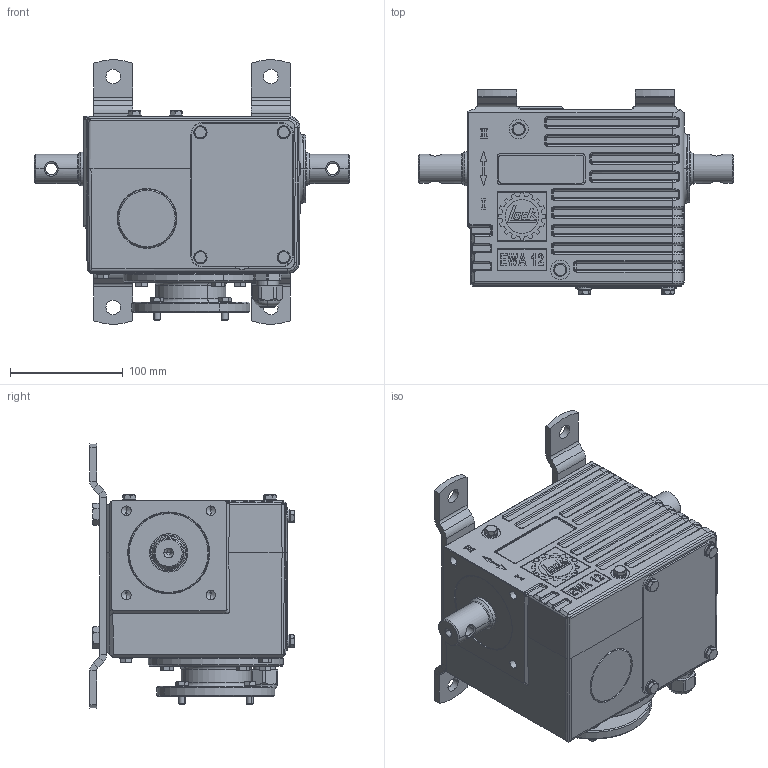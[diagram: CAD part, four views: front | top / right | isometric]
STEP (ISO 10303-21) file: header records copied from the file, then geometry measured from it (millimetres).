
FILE_DESCRIPTION (( 'STEP AP214' ), '1' );
FILE_NAME ('010203076_EWA_12_3D__DE_12212.2505.0620.STEP', '2022-09-05T06:57:25', ( '' ), ( '' ), 'SwSTEP 2.0', 'SolidWorks 2020', '' );
FILE_SCHEMA (( 'AUTOMOTIVE_DESIGN' ));
Length unit declared in the file: millimetre
Products named in the file (25): 010203076_EWA_12_3D__DE_12212.2505.0620; Elektroteil_10001640; Elektroteil_10028709; 010192906_EWA_12_3D-Modell_DE_10192906_END 20-90000.0002.6290 m.SB; Montageplatte_10000170; Schraube_10002078; Elektroteil_10001639; 010194287_EWA_12_3D-Modell_DE_10194287; 010201812__3D__DE_84204.0037.PM01; Elektroantrieb_EWA_10052452_ohne Inhalt; Schraube_10014320; Schraube_10018291; Dichtelement_10032469; Kennzeichnung_10001854; Scheibe_10002061; Dichtelement_10001203; Wälzlager_10001868; Verbindungselement_10057233; Deckel_10000048; 010200543_EWA_12_3D__DE; 010198258_EWA_3D-Modell_DE_10198258; 010191515_Normteil_Kaufteil_3D-Modell_DE_10191515; Schraube_10028710; 010200547_EWA_12_3D__DE_Ohne Inhalt; Dichtelement_10005476
Assembly tree (47 placements, depth 3):
  010203076_EWA_12_3D__DE_12212.2505.0620
    Elektroantrieb_EWA_10052452_ohne Inhalt
      010192906_EWA_12_3D-Modell_DE_10192906_END 20-90000.0002.6290 m.SB
      Montageplatte_10000170  x2
      Schraube_10028710  x4
      Dichtelement_10005476
      Dichtelement_10032469
      Elektroteil_10001639
      Elektroteil_10001640
      Elektroteil_10028709
      Deckel_10000048
      Scheibe_10002061  x8
      010191515_Normteil_Kaufteil_3D-Modell_DE_10191515  x4
      Wälzlager_10001868
      Schraube_10018291  x4
      010194287_EWA_12_3D-Modell_DE_10194287
      Dichtelement_10001203
    Schraube_10014320
    Schraube_10002078  x4
    Kennzeichnung_10001854
    010201812__3D__DE_84204.0037.PM01
    010200547_EWA_12_3D__DE_Ohne Inhalt
      010200543_EWA_12_3D__DE
      010198258_EWA_3D-Modell_DE_10198258
      Schraube_10002078  x4
  Verbindungselement_10057233
Bounding box: 280 x 181.5 x 234.74 mm (x, y, z)
Volume: 1628531.4 mm3; surface area: 517423.4 mm2
Topology: 46 solids, 48 shells, 2890 faces, 6956 edges, 4195 vertices
Faces by surface type: plane 1069, cylinder 894, bspline 380, torus 331, cone 138, sphere 78
Entity records: 641367 total; most frequent: CARTESIAN_POINT 412786, ORIENTED_EDGE 58153, EDGE_CURVE 29079, DIRECTION 26738, B_SPLINE_CURVE_WITH_KNOTS 22111, VERTEX_POINT 17273, EDGE_LOOP 12698, ADVANCED_FACE 12140
